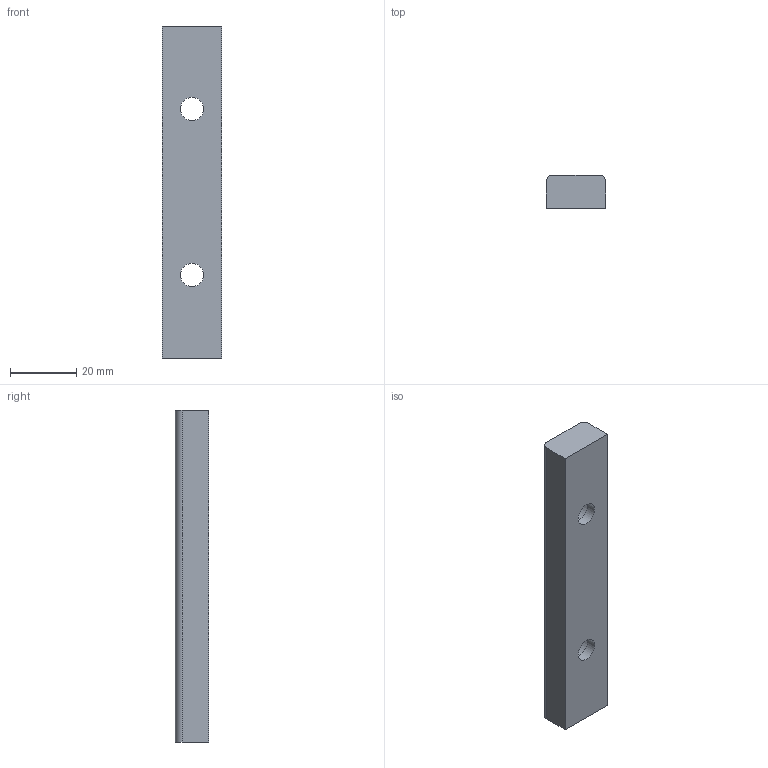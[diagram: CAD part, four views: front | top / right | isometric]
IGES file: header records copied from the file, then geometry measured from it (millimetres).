
Start section: Data from Parasolid IGES Translator 20.0.26, Copyright(c) 2006 Siemens P LM Software. All Rights Reserved.
Global section: file name: G220-01-018-100.igs; native system: By Siemens PLM Incorporated; preprocessor: XPlus GENERIC/IGES 20.0.26; author: Noname; organization: Noname; date: 20190705.150357; units: millimetre
Bounding box: 18 x 10 x 100 mm (x, y, z)
Surface area: 6246.7 mm2 (no closed solid volume)
Topology: 0 solids, 0 shells, 14 faces, 60 edges, 54 vertices
Faces by surface type: extrusion 8, revolution 6
